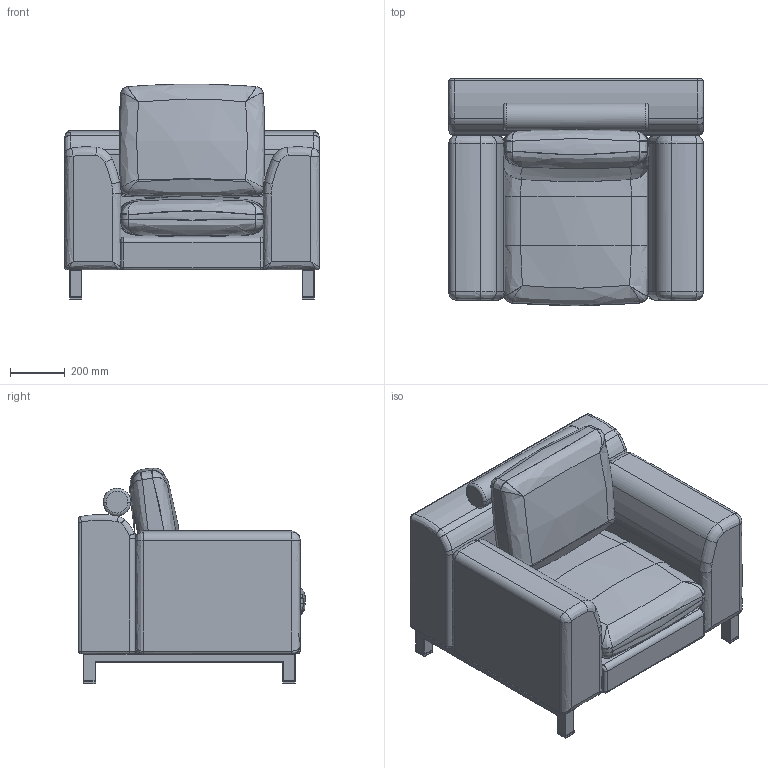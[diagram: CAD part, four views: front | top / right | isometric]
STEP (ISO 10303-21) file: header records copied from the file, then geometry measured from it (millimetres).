
FILE_DESCRIPTION(/* description */ (''),/* implementation_level */ '2;1');
FILE_NAME(/* name */ 'KINOSH~1',/* time_stamp */ '2019-07-19T11:16:10+09:00',/* author */ (''),/* organization */ (''),/* preprocessor_version */ 'ST-DEVELOPER v15',/* originating_system */ '',/* authorisation */ '');
FILE_SCHEMA (('AUTOMOTIVE_DESIGN'));
Length unit declared in the file: millimetre
Products named in the file (3): Document; ﾌﾞﾛｯｸ 84; ﾌﾞﾛｯｸ 85
Assembly tree (2 placements, depth 2):
  Document
    ﾌﾞﾛｯｸ 84
    ﾌﾞﾛｯｸ 85
Bounding box: 930 x 830 x 789.65 mm (x, y, z)
Volume: 245583222.9 mm3; surface area: 5936029.7 mm2
Topology: 11 solids, 25 shells, 414 faces, 1031 edges, 557 vertices
Faces by surface type: bspline 347, plane 67
Entity records: 62580 total; most frequent: CARTESIAN_POINT 57155, ORIENTED_EDGE 1750, EDGE_CURVE 975, VERTEX_POINT 557, B_SPLINE_CURVE_WITH_KNOTS 515, ADVANCED_FACE 414, FACE_OUTER_BOUND 414, EDGE_LOOP 414
